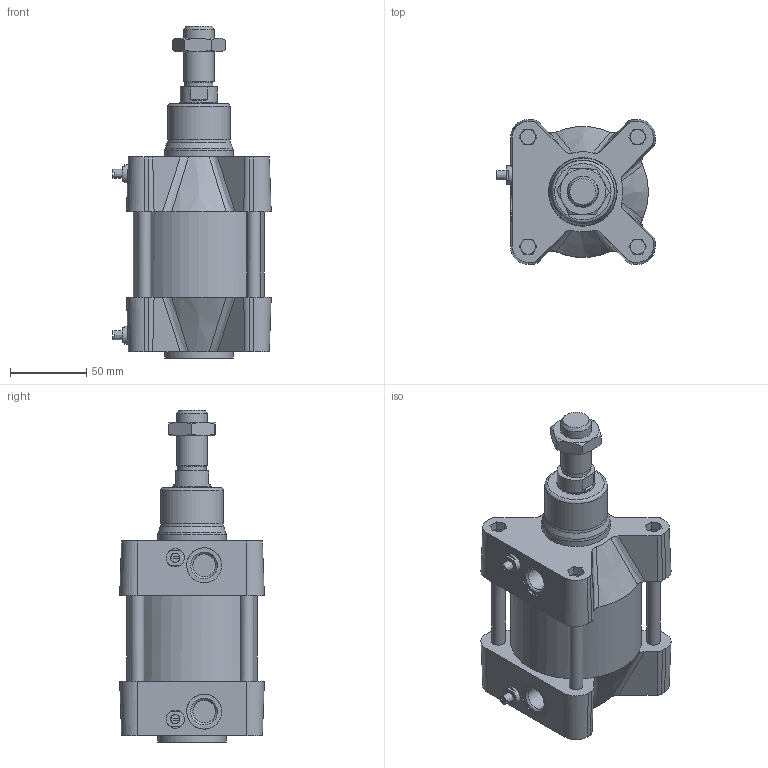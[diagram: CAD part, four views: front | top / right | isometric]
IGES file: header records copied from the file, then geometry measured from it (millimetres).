
Global section: file name: 1393_080_0000_01; native system: Autodesk Inventor 2014; preprocessor: unknown; author: A. Manieri; date: 20151130.150658; units: millimetre
Bounding box: 104 x 95 x 218 mm (x, y, z)
Volume: 886520.4 mm3; surface area: 141268.7 mm2
Topology: 3 solids, 5 shells, 233 faces, 578 edges, 377 vertices
Faces by surface type: bspline 233
